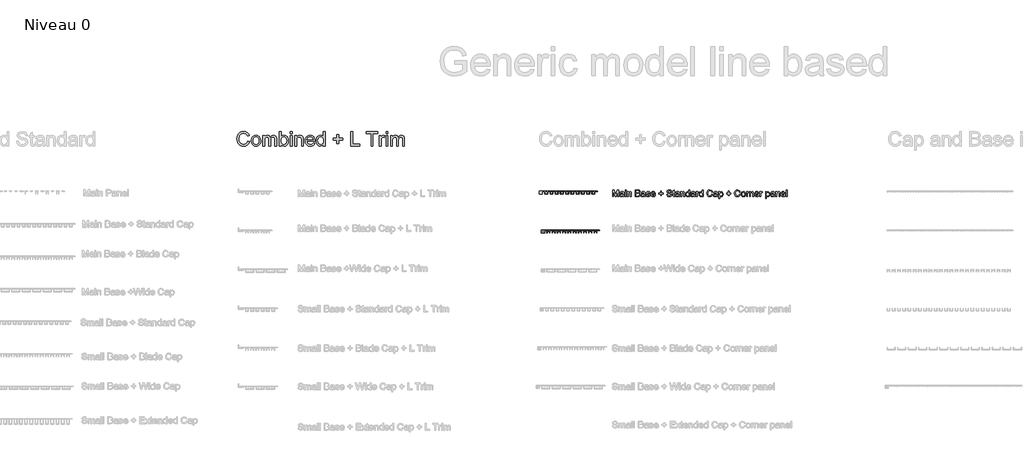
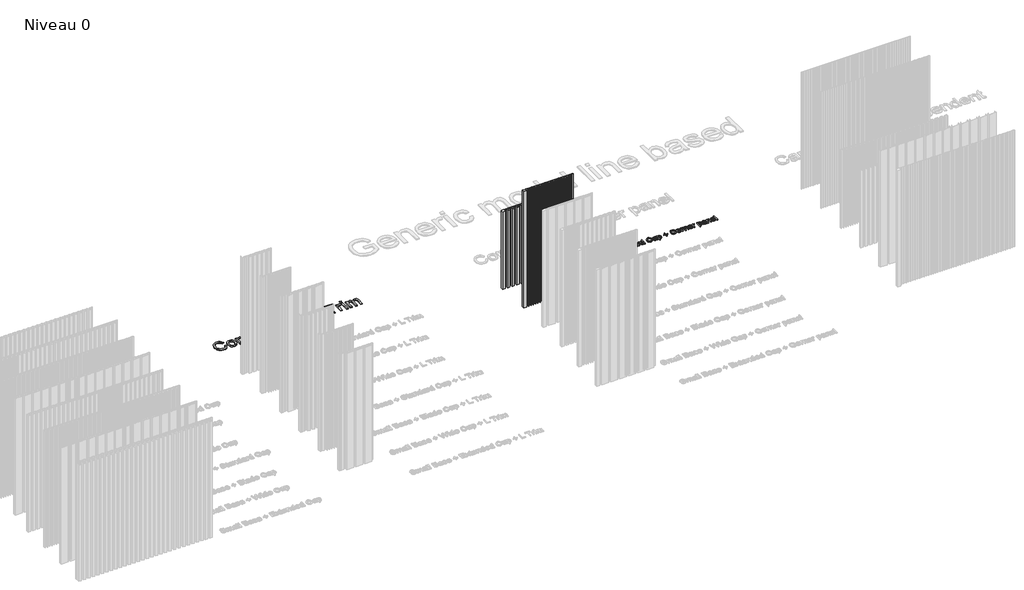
# One storey, part 18 of 25: 4 proxies.
"""IFC4 building model written with IfcOpenShell, lengths in millimetres."""

from ifc_helpers import new_model, si_unit, origin, origin_with_axes, place, context, project, spatial, polyline, outline, extrude, transform, mapped, element, save
from components import generic_models_521fa4f8, a_gen_line_main_base_corner_angle_a_gen_line_main_base_e9d3a1bb

model = new_model("IFC4")

# Units and contexts
model_context = context("Model", 3, world=origin())
ifc_project = project(units=[si_unit("LENGTHUNIT", "METRE", prefix="MILLI")], contexts=[model_context])

# Site, building, storey
site = spatial("IfcSite", under=ifc_project)
building = spatial("IfcBuilding", under=site)
storey = spatial("IfcBuildingStorey", under=building, Name="Niveau 0", Elevation=0.0)

# Proxies
placement = place(None, origin())
generic_models_shape = generic_models_521fa4f8(model_context)
element("IfcBuildingElementProxy", 1, Name="A_GEN_LINE_Main Base_Blade Cap_Corner Angle : A_GEN_LINE_Main Base_Blade Cap_Corner Angle", ObjectType="A_GEN_LINE_Main Base_Blade Cap_Corner Angle : A_GEN_LINE_Main Base_Blade Cap_Corner Angle", at=placement, inside=storey, context=model_context, shape_type="MappedRepresentation", body=[
    mapped(generic_models_shape, transform((3156.2043729, 4162.0535735, 0.0), x_axis=(1.0, 0.0, 0.0), y_axis=(0.0, 1.0, 0.0), z_axis=(0.0, 0.0, 1.0))),
])
element("IfcBuildingElementProxy", 2, Name="150 mm Arial", ObjectType="150 mm Arial", at=placement, inside=storey, context=model_context, shape_type="SweptSolid", body=[
    extrude(outline(polyline([(54.7960362, 5099.4454374), (73.6315944, 5094.5893951), (64.9403822, 5072.6406355), (51.3011573, 5056.6055791), (33.3853041, 5046.7969254), (11.8642074, 5043.5273741), (-9.9833846, 5046.0013806), (-27.3336192, 5053.4233998), (-40.6325533, 5065.5359145), (-50.3262439, 5082.0814072), (-56.2445455, 5101.5331677), (-58.2173127, 5122.3644857), (-55.9870281, 5144.3362379), (-49.2961743, 5163.3097518), (-38.4942392, 5178.6826207), (-23.9307108, 5189.8524377), (-6.6586511, 5196.6536561), (12.2688776, 5198.9207289), (32.9208531, 5195.98687), (49.9951762, 5187.1852933), (62.958418, 5173.0586246), (71.2771496, 5154.1494901), (52.4415914, 5149.6613298), (45.911686, 5163.3971238), (36.9905476, 5172.8195014), (25.5678117, 5178.2687534), (11.5331136, 5180.0851708), (-4.6444972, 5178.0710168), (-17.9342342, 5172.0285551), (-28.0187994, 5162.5923819), (-34.5808945, 5150.3970937), (-39.3817546, 5122.4012739), (-37.9608104, 5105.0004555), (-33.6979777, 5089.9540819), (-26.4323083, 5077.8369687), (-16.0028538, 5069.2239315), (-3.4994645, 5064.0781821), (9.9880092, 5062.3629323), (25.710366, 5064.698983), (38.8115635, 5071.707135), (48.7029907, 5083.3138119), (54.7960362, 5099.4454374)])), origin_with_axes(), (0.0, 0.0, 1.0), 10.0),
    extrude(outline(polyline([(92.4671525, 5101.211271), (96.5414456, 5127.8919127), (108.7643249, 5146.6446974), (123.8658808, 5155.8325502), (141.9472809, 5158.8951678), (161.7347337, 5155.1657641), (177.5398639, 5143.9775529), (187.9003406, 5126.2134511), (191.3538328, 5102.7563754), (189.8271225, 5083.7276792), (185.2469917, 5069.2423256), (177.7467975, 5058.3944053), (167.4598972, 5050.2780088), (155.2416165, 5045.2150328), (141.9472809, 5043.5273741), (121.9207048, 5047.2429823), (106.1339686, 5058.3898068), (95.8838565, 5076.5263891), (92.4671525, 5101.211271)]), holes=[polyline([(111.3027107, 5101.2480592), (113.4824115, 5084.2013272), (120.021514, 5072.0566229), (129.8623573, 5064.7863549), (141.9472809, 5062.3629323), (153.9770221, 5064.8001505), (163.7994714, 5072.1118052), (170.3385738, 5084.4174579), (172.5182747, 5101.8366704), (170.3247783, 5118.3867616), (163.7442891, 5130.3659191), (153.9080442, 5137.636187), (141.9472809, 5140.0596097), (129.8623573, 5137.6453841), (120.021514, 5130.4027073), (113.4824115, 5118.2855941), (111.3027107, 5101.2480592)])]), origin_with_axes(), (0.0, 0.0, 1.0), 10.0),
    extrude(outline(polyline([(212.5438357, 5045.8818189), (212.5438357, 5156.5407231), (231.3793939, 5156.5407231), (231.3793939, 5138.3305643), (244.3288401, 5153.2481792), (262.7597281, 5158.8951678), (273.2351679, 5157.4558295), (281.6320744, 5153.1378146), (292.0063467, 5137.0061891), (306.7032324, 5153.4229232), (325.2628791, 5158.8951678), (339.4217374, 5156.618898), (349.8925786, 5149.7900885), (356.3627032, 5138.2247982), (358.5194114, 5121.7390863), (358.5194114, 5045.8818189), (339.6838533, 5045.8818189), (339.6838533, 5113.6456824), (337.9364138, 5129.3726377), (331.6088435, 5137.1165537), (320.8482951, 5140.0596097), (310.6441683, 5138.1742145), (302.3254367, 5132.5180288), (296.7934112, 5122.7047766), (294.9494027, 5108.3481817), (294.9494027, 5045.8818189), (276.1138445, 5045.8818189), (276.1138445, 5115.7426098), (271.7544429, 5133.9895568), (266.0016882, 5138.5420965), (257.4622274, 5140.0596097), (243.5194997, 5136.0129077), (234.2488735, 5124.1671075), (231.3793939, 5101.6895176), (231.3793939, 5045.8818189), (212.5438357, 5045.8818189)])), origin_with_axes(), (0.0, 0.0, 1.0), 10.0),
    extrude(outline(polyline([(405.6083068, 5045.8818189), (386.7727487, 5045.8818189), (386.7727487, 5196.5662841), (405.6083068, 5196.5662841), (405.6083068, 5140.6850091), (418.7968763, 5154.3426281), (435.1860192, 5158.8951678), (454.0583656, 5154.7932836), (468.700069, 5143.260183), (477.6947838, 5125.3259358), (480.9505394, 5102.86674), (477.5798206, 5077.7220056), (467.4676643, 5059.0152061), (452.6282243, 5047.3993321), (435.0756546, 5043.5273741), (418.3278268, 5048.5213722), (405.6083068, 5063.5033665), (405.6083068, 5045.8818189)]), holes=[polyline([(405.6083068, 5101.9838232), (406.8958938, 5086.275262), (410.7586547, 5075.6434723), (420.6270893, 5065.6830673), (433.4569738, 5062.3629323), (444.3278868, 5064.8093476), (453.6169072, 5072.1485934), (459.9904627, 5084.3346845), (462.1149813, 5101.3216356), (460.0778347, 5118.5569071), (453.9663951, 5130.6050424), (444.9670818, 5137.6959679), (434.2663142, 5140.0596097), (423.3954013, 5137.6131944), (414.1063809, 5130.2739486), (407.7328253, 5118.3085867), (405.6083068, 5101.9838232)])]), origin_with_axes(), (0.0, 0.0, 1.0), 10.0),
    extrude(outline(polyline([(502.1405423, 5045.8818189), (502.1405423, 5156.5407231), (520.9761005, 5156.5407231), (520.9761005, 5045.8818189), (502.1405423, 5045.8818189)])), origin_with_axes(), (0.0, 0.0, 1.0), 10.0),
    extrude(outline(polyline([(502.1405423, 5177.730726), (502.1405423, 5196.5662841), (520.9761005, 5196.5662841), (520.9761005, 5177.730726), (502.1405423, 5177.730726)])), origin_with_axes(), (0.0, 0.0, 1.0), 10.0),
    extrude(outline(polyline([(549.2294377, 5045.8818189), (549.2294377, 5156.5407231), (568.0649959, 5156.5407231), (568.0649959, 5141.0896793), (582.467576, 5154.4437957), (602.1308686, 5158.8951678), (619.9179631, 5155.3083184), (632.0580689, 5145.8905393), (637.7050576, 5132.0397822), (638.698339, 5113.8296234), (638.698339, 5045.8818189), (619.8627808, 5045.8818189), (619.8627808, 5111.2912377), (617.692277, 5127.956292), (610.0219374, 5136.7670658), (597.0908853, 5140.0596097), (586.059024, 5138.2110027), (576.6550405, 5132.6651816), (570.212507, 5121.9506185), (568.0649959, 5104.5957853), (568.0649959, 5045.8818189), (549.2294377, 5045.8818189)])), origin_with_axes(), (0.0, 0.0, 1.0), 10.0),
    extrude(outline(polyline([(742.0731796, 5078.8440457), (760.5408558, 5076.4896009), (753.8867902, 5062.5744644), (743.2687961, 5052.172601), (728.9259968, 5045.6886809), (711.0975156, 5043.5273741), (688.9970047, 5047.2567779), (671.9916595, 5058.4449891), (661.1483377, 5076.3654407), (657.5338971, 5100.291566), (661.1851259, 5125.0224331), (672.1388123, 5143.5177004), (688.9142313, 5155.050801), (710.0306578, 5158.8951678), (730.4894953, 5155.059998), (746.8372514, 5143.5544886), (757.5564131, 5125.0960095), (761.1294669, 5100.4019306), (761.0191023, 5095.3251591), (676.3694553, 5095.3251591), (679.6298094, 5081.2260816), (687.20358, 5070.8610064), (698.1342738, 5064.4874508), (711.4653976, 5062.3629323), (729.9330738, 5066.2992696), (742.0731796, 5078.8440457)]), holes=[polyline([(676.3694553, 5114.1607172), (742.2939088, 5114.1607172), (739.746326, 5124.1119252), (734.7523279, 5131.2304418), (723.7710503, 5137.8523177), (709.9570814, 5140.0596097), (697.2605541, 5138.2983746), (686.7621216, 5133.0146695), (679.4642625, 5124.7787113), (676.3694553, 5114.1607172)])]), origin_with_axes(), (0.0, 0.0, 1.0), 10.0),
    extrude(outline(polyline([(848.2439234, 5045.8818189), (848.2439234, 5063.6505193), (835.7819208, 5048.5581604), (818.5558464, 5043.5273741), (806.3789524, 5045.34839), (795.2321279, 5050.8114377), (785.7959547, 5059.5348395), (778.7510145, 5071.1369179), (774.3640217, 5085.1486234), (772.9016908, 5101.1009064), (778.291162, 5131.083289), (785.0234025, 5142.9750745), (794.4411816, 5151.7214689), (805.8317279, 5157.1017431), (818.48227, 5158.8951678), (835.8463002, 5153.763214), (848.2439234, 5140.4274917), (848.2439234, 5196.5662841), (867.0794816, 5196.5662841), (867.0794816, 5045.8818189), (848.2439234, 5045.8818189)]), holes=[polyline([(791.7372489, 5101.1744828), (793.8617675, 5084.1369479), (800.235323, 5072.0198347), (809.4967523, 5064.7771579), (820.2848918, 5062.3629323), (831.0684328, 5064.6667933), (840.0953372, 5071.5783763), (846.2067769, 5083.22644), (848.2439234, 5099.739743), (846.1699887, 5117.7935519), (839.9481844, 5130.3107368), (830.6913537, 5137.6223915), (819.5123396, 5140.0596097), (808.6138355, 5137.7189605), (799.6835, 5130.6970129), (793.7238117, 5118.635082), (791.7372489, 5101.1744828)])]), origin_with_axes(), (0.0, 0.0, 1.0), 10.0),
    extrude(outline(polyline([(991.8650543, 5069.4262666), (991.8650543, 5109.4518277), (951.8394932, 5109.4518277), (951.8394932, 5128.2873858), (991.8650543, 5128.2873858), (991.8650543, 5168.3129469), (1010.7006125, 5168.3129469), (1010.7006125, 5128.2873858), (1050.7261735, 5128.2873858), (1050.7261735, 5109.4518277), (1010.7006125, 5109.4518277), (1010.7006125, 5069.4262666), (991.8650543, 5069.4262666)])), origin_with_axes(), (0.0, 0.0, 1.0), 10.0),
    extrude(outline(polyline([(1137.84063, 5045.8818189), (1137.84063, 5196.5662841), (1156.6761882, 5196.5662841), (1156.6761882, 5064.7173771), (1232.0184208, 5064.7173771), (1232.0184208, 5045.8818189), (1137.84063, 5045.8818189)])), origin_with_axes(), (0.0, 0.0, 1.0), 10.0),
    extrude(outline(polyline([(1349.7406592, 5045.8818189), (1349.7406592, 5177.730726), (1300.2973191, 5177.730726), (1300.2973191, 5196.5662841), (1418.0195575, 5196.5662841), (1418.0195575, 5177.730726), (1368.5762174, 5177.730726), (1368.5762174, 5045.8818189), (1349.7406592, 5045.8818189)])), origin_with_axes(), (0.0, 0.0, 1.0), 10.0),
    extrude(outline(polyline([(1436.8551157, 5045.8818189), (1436.8551157, 5156.5407231), (1453.3362291, 5156.5407231), (1453.3362291, 5140.1699743), (1465.0348765, 5155.2531361), (1476.8071004, 5158.8951678), (1495.7162349, 5153.0826323), (1489.4254528, 5136.1968487), (1476.181701, 5140.0596097), (1465.5315172, 5136.3440015), (1458.7440944, 5126.0433057), (1455.6906738, 5104.0439624), (1455.6906738, 5045.8818189), (1436.8551157, 5045.8818189)])), origin_with_axes(), (0.0, 0.0, 1.0), 10.0),
    extrude(outline(polyline([(1507.4884588, 5177.730726), (1507.4884588, 5196.5662841), (1526.3240169, 5196.5662841), (1526.3240169, 5177.730726), (1507.4884588, 5177.730726)])), origin_with_axes(), (0.0, 0.0, 1.0), 10.0),
    extrude(outline(polyline([(1507.4884588, 5045.8818189), (1507.4884588, 5156.5407231), (1526.3240169, 5156.5407231), (1526.3240169, 5045.8818189), (1507.4884588, 5045.8818189)])), origin_with_axes(), (0.0, 0.0, 1.0), 10.0),
    extrude(outline(polyline([(1554.5773541, 5045.8818189), (1554.5773541, 5156.5407231), (1573.4129123, 5156.5407231), (1573.4129123, 5138.3305643), (1586.3623585, 5153.2481792), (1604.7932465, 5158.8951678), (1615.2686863, 5157.4558295), (1623.6655928, 5153.1378146), (1634.0398651, 5137.0061891), (1648.7367508, 5153.4229232), (1667.2963975, 5158.8951678), (1681.4552558, 5156.618898), (1691.926097, 5149.7900885), (1698.3962216, 5138.2247982), (1700.5529298, 5121.7390863), (1700.5529298, 5045.8818189), (1681.7173717, 5045.8818189), (1681.7173717, 5113.6456824), (1679.9699322, 5129.3726377), (1673.6423619, 5137.1165537), (1662.8818135, 5140.0596097), (1652.6776867, 5138.1742145), (1644.3589551, 5132.5180288), (1638.8269296, 5122.7047766), (1636.9829211, 5108.3481817), (1636.9829211, 5045.8818189), (1618.1473629, 5045.8818189), (1618.1473629, 5115.7426098), (1613.7879613, 5133.9895568), (1608.0352066, 5138.5420965), (1599.4957458, 5140.0596097), (1585.5530181, 5136.0129077), (1576.2823919, 5124.1671075), (1573.4129123, 5101.6895176), (1573.4129123, 5045.8818189), (1554.5773541, 5045.8818189)])), origin_with_axes(), (0.0, 0.0, 1.0), 10.0),
])
element("IfcBuildingElementProxy", 3, Name="70mm Arial", ObjectType="70mm Arial", at=placement, inside=storey, context=model_context, shape_type="SweptSolid", body=[
    extrude(outline(polyline([(3886.1765083, 4513.9134613), (3886.1765083, 4584.2328784), (3901.3013634, 4584.2328784), (3915.688002, 4534.6693635), (3918.5893646, 4524.3171642), (3921.7310769, 4535.5277548), (3935.8773659, 4584.2328784), (3951.0022209, 4584.2328784), (3951.0022209, 4513.9134613), (3942.2122938, 4513.9134613), (3942.2122938, 4575.4429513), (3924.5466004, 4513.9134613), (3912.6321289, 4513.9134613), (3894.9664354, 4575.4429513), (3894.9664354, 4513.9134613), (3886.1765083, 4513.9134613)])), origin_with_axes(), (0.0, 0.0, 1.0), 10.0),
    extrude(outline(polyline([(3998.2480793, 4520.5059067), (3989.7242535, 4514.5486709), (3980.3077007, 4512.8147204), (3967.5434217, 4516.9865023), (3963.0883708, 4527.6477225), (3964.7708178, 4534.6006922), (3969.1915331, 4539.6480332), (3975.3461988, 4542.532228), (3982.951546, 4543.8541506), (3998.1965758, 4546.8756881), (3998.2480793, 4548.8328203), (3995.8274158, 4555.3222587), (3986.110426, 4557.863097), (3977.2174919, 4556.1720661), (3972.9770388, 4550.1719108), (3964.1871117, 4551.2706517), (3967.9897852, 4559.8545649), (3975.6466358, 4564.884738), (3987.2435026, 4566.6530242), (3997.8961389, 4565.090752), (4003.913462, 4561.1679036), (4006.6088108, 4555.2020839), (4007.0380065, 4547.5108977), (4007.0380065, 4536.5749922), (4007.4843699, 4521.3042106), (4009.2354882, 4513.9134613), (4000.4455611, 4513.9134613), (3998.2480793, 4520.5059067)]), holes=[polyline([(3998.2480793, 4538.085761), (3984.0674547, 4535.3904122), (3976.5050271, 4533.9654826), (3973.0800458, 4531.647826), (3971.8782979, 4528.2657642), (3974.4963914, 4523.5102763), (3982.1789938, 4521.6046476), (3991.0719279, 4523.7077063), (3996.8059819, 4528.7979669), (3998.1965758, 4535.5964261), (3998.2480793, 4538.085761)])]), origin_with_axes(), (0.0, 0.0, 1.0), 10.0),
    extrude(outline(polyline([(4019.1241563, 4513.9134613), (4019.1241563, 4565.5542833), (4027.9140834, 4565.5542833), (4027.9140834, 4513.9134613), (4019.1241563, 4513.9134613)])), origin_with_axes(), (0.0, 0.0, 1.0), 10.0),
    extrude(outline(polyline([(4019.1241563, 4575.4429513), (4019.1241563, 4584.2328784), (4027.9140834, 4584.2328784), (4027.9140834, 4575.4429513), (4019.1241563, 4575.4429513)])), origin_with_axes(), (0.0, 0.0, 1.0), 10.0),
    extrude(outline(polyline([(4041.0989741, 4513.9134613), (4041.0989741, 4565.5542833), (4049.8889013, 4565.5542833), (4049.8889013, 4558.3437962), (4056.6101053, 4564.5757172), (4065.7863085, 4566.6530242), (4074.0869526, 4564.9791611), (4079.7523353, 4560.5841975), (4082.3875967, 4554.1205109), (4082.851128, 4545.6224368), (4082.851128, 4513.9134613), (4074.0612009, 4513.9134613), (4074.0612009, 4544.4378567), (4073.0482991, 4552.2148821), (4069.4688073, 4556.3265766), (4063.4343163, 4557.863097), (4053.8975887, 4554.4123639), (4049.8889013, 4541.3133123), (4049.8889013, 4513.9134613), (4041.0989741, 4513.9134613)])), origin_with_axes(), (0.0, 0.0, 1.0), 10.0),
    extrude(outline(polyline([(4123.504541, 4513.9134613), (4123.504541, 4584.2328784), (4150.3378538, 4584.2328784), (4163.4798249, 4582.1641554), (4171.2396825, 4575.8034757), (4174.0466221, 4566.8075346), (4171.6860459, 4558.5927296), (4164.5528141, 4552.3693926), (4173.2139825, 4545.8112829), (4176.2441039, 4534.8753774), (4174.1753808, 4525.424489), (4169.0507846, 4518.694701), (4161.4025179, 4515.1237931), (4150.1318398, 4513.9134613), (4123.504541, 4513.9134613)]), holes=[polyline([(4132.2944682, 4555.6656152), (4148.3463859, 4555.6656152), (4157.7200191, 4556.4209996), (4163.3596501, 4559.6743027), (4165.2566949, 4565.3997728), (4163.4884088, 4571.1338269), (4158.4239, 4574.5244726), (4147.1274702, 4575.4429513), (4132.2944682, 4575.4429513), (4132.2944682, 4555.6656152)]), polyline([(4132.2944682, 4522.7033885), (4150.3206859, 4522.7033885), (4156.84446, 4523.046745), (4162.3639162, 4524.9609576), (4166.0206632, 4528.8666382), (4167.4541767, 4534.7895383), (4165.7717297, 4541.6223332), (4160.3209448, 4545.699692), (4149.4622946, 4546.8756881), (4132.2944682, 4546.8756881), (4132.2944682, 4522.7033885)])]), origin_with_axes(), (0.0, 0.0, 1.0), 10.0),
    extrude(outline(polyline([(4220.1937396, 4520.5059067), (4211.6699137, 4514.5486709), (4202.2533609, 4512.8147204), (4189.489082, 4516.9865023), (4185.034031, 4527.6477225), (4186.716478, 4534.6006922), (4191.1371933, 4539.6480332), (4197.2918591, 4542.532228), (4204.8972062, 4543.8541506), (4220.1422361, 4546.8756881), (4220.1937396, 4548.8328203), (4217.773076, 4555.3222587), (4208.0560863, 4557.863097), (4199.1631522, 4556.1720661), (4194.922699, 4550.1719108), (4186.1327719, 4551.2706517), (4189.9354454, 4559.8545649), (4197.592296, 4564.884738), (4209.1891628, 4566.6530242), (4219.8417991, 4565.090752), (4225.8591223, 4561.1679036), (4228.554471, 4555.2020839), (4228.9836667, 4547.5108977), (4228.9836667, 4536.5749922), (4229.4300302, 4521.3042106), (4231.1811485, 4513.9134613), (4222.3912213, 4513.9134613), (4220.1937396, 4520.5059067)]), holes=[polyline([(4220.1937396, 4538.085761), (4206.0131149, 4535.3904122), (4198.4506874, 4533.9654826), (4195.025706, 4531.647826), (4193.8239581, 4528.2657642), (4196.4420517, 4523.5102763), (4204.124654, 4521.6046476), (4213.0175881, 4523.7077063), (4218.7516421, 4528.7979669), (4220.1422361, 4535.5964261), (4220.1937396, 4538.085761)])]), origin_with_axes(), (0.0, 0.0, 1.0), 10.0),
    extrude(outline(polyline([(4237.7735938, 4529.2958338), (4246.563521, 4530.3945747), (4250.6322958, 4523.8708007), (4259.9544256, 4521.6046476), (4268.916031, 4523.6819546), (4271.8345615, 4528.5576173), (4268.8988632, 4532.5062174), (4259.8514186, 4535.01272), (4246.6150244, 4539.3132606), (4240.8380508, 4544.3348498), (4238.8723347, 4551.4251621), (4240.4517748, 4557.9746879), (4244.7608992, 4562.9791093), (4250.3490267, 4565.580035), (4257.9114542, 4566.6530242), (4268.6070101, 4564.9276576), (4275.4054694, 4560.2580088), (4278.4270068, 4552.3693926), (4269.6370797, 4551.2706517), (4266.3322731, 4556.1205626), (4258.5981673, 4557.863097), (4250.1859323, 4556.1978179), (4247.6622619, 4552.3178891), (4248.7094993, 4549.7598829), (4251.9885541, 4547.8199186), (4259.5595656, 4545.9486255), (4272.4611872, 4541.8111793), (4278.4527586, 4537.1243627), (4280.6244886, 4529.4846799), (4278.0750664, 4521.072445), (4270.7186528, 4514.9692827), (4259.8342508, 4512.8147204), (4244.5033818, 4516.9693344), (4237.7735938, 4529.2958338)])), origin_with_axes(), (0.0, 0.0, 1.0), 10.0),
    extrude(outline(polyline([(4326.6685991, 4529.2958338), (4335.286848, 4528.1970929), (4327.2265535, 4516.8491597), (4312.2132893, 4512.8147204), (4301.8997175, 4514.5551088), (4293.9638898, 4519.7762741), (4288.9036729, 4528.1391515), (4287.216934, 4539.3046766), (4288.9208408, 4550.845748), (4294.0325611, 4559.4768727), (4301.8610899, 4564.8589863), (4311.7154223, 4566.6530242), (4321.2628798, 4564.8632783), (4328.8918327, 4559.4940405), (4333.8941081, 4550.8800836), (4335.5615332, 4539.3561801), (4335.5100298, 4536.9870201), (4296.0068611, 4536.9870201), (4301.062786, 4525.5704155), (4312.3849675, 4521.6046476), (4321.0032164, 4523.441605), (4326.6685991, 4529.2958338)]), holes=[polyline([(4296.0068611, 4545.7769472), (4326.7716061, 4545.7769472), (4323.2522017, 4553.7428187), (4311.6810867, 4557.863097), (4300.8567721, 4554.5754583), (4296.0068611, 4545.7769472)])]), origin_with_axes(), (0.0, 0.0, 1.0), 10.0),
    extrude(outline(polyline([(4389.399837, 4524.9008703), (4389.399837, 4543.5794654), (4370.7212418, 4543.5794654), (4370.7212418, 4552.3693926), (4389.399837, 4552.3693926), (4389.399837, 4571.0479877), (4398.1897641, 4571.0479877), (4398.1897641, 4552.3693926), (4416.8683593, 4552.3693926), (4416.8683593, 4543.5794654), (4398.1897641, 4543.5794654), (4398.1897641, 4524.9008703), (4389.399837, 4524.9008703)])), origin_with_axes(), (0.0, 0.0, 1.0), 10.0),
    extrude(outline(polyline([(4454.2255496, 4538.085761), (4463.0154767, 4538.085761), (4465.8481681, 4529.2872499), (4472.7668022, 4523.7248741), (4483.3078476, 4521.6046476), (4492.4926347, 4523.2098394), (4498.4241188, 4527.6219707), (4500.3726671, 4533.5191191), (4498.9134018, 4539.0042397), (4492.9389982, 4542.9957593), (4480.1403836, 4546.3520694), (4466.3632029, 4550.6869456), (4458.8866145, 4557.2278874), (4456.4230314, 4565.9663111), (4459.4703206, 4575.9150665), (4468.3718386, 4582.9367075), (4481.4022189, 4585.3316193), (4495.3081583, 4582.8251167), (4504.5787846, 4575.4601191), (4508.0638533, 4564.4555424), (4499.2739262, 4564.4555424), (4494.2952565, 4573.4858191), (4481.7455754, 4576.5416922), (4469.1615586, 4573.5201547), (4465.2129585, 4566.2238285), (4468.0113142, 4560.1292501), (4482.3636171, 4555.2192518), (4497.9176679, 4550.8071204), (4506.4243259, 4543.6824724), (4509.1625942, 4533.7423009), (4506.0122981, 4523.2270072), (4496.9476857, 4515.5529888), (4483.6512041, 4512.8147204), (4467.9512268, 4515.7675866), (4458.0196392, 4524.6605207), (4454.2255496, 4538.085761)])), origin_with_axes(), (0.0, 0.0, 1.0), 10.0),
    extrude(outline(polyline([(4539.9273392, 4521.2441232), (4541.0260801, 4513.6559439), (4534.4508026, 4512.8147204), (4527.085805, 4514.2739857), (4523.4118902, 4518.102411), (4522.3474849, 4528.0769181), (4522.3474849, 4556.7643561), (4515.7550396, 4556.7643561), (4515.7550396, 4565.5542833), (4522.3474849, 4565.5542833), (4522.3474849, 4578.1039644), (4531.1374121, 4583.2714802), (4531.1374121, 4565.5542833), (4539.9273392, 4565.5542833), (4539.9273392, 4556.7643561), (4531.1374121, 4556.7643561), (4531.1374121, 4528.3344355), (4531.6009434, 4523.8021294), (4533.1031282, 4522.1969376), (4536.0989139, 4521.6046476), (4539.9273392, 4521.2441232)])), origin_with_axes(), (0.0, 0.0, 1.0), 10.0),
    extrude(outline(polyline([(4581.6794931, 4520.5059067), (4573.1556673, 4514.5486709), (4563.7391145, 4512.8147204), (4550.9748355, 4516.9865023), (4546.5197846, 4527.6477225), (4548.2022315, 4534.6006922), (4552.6229469, 4539.6480332), (4558.7776126, 4542.532228), (4566.3829597, 4543.8541506), (4581.6279896, 4546.8756881), (4581.6794931, 4548.8328203), (4579.2588296, 4555.3222587), (4569.5418398, 4557.863097), (4560.6489057, 4556.1720661), (4556.4084526, 4550.1719108), (4547.6185254, 4551.2706517), (4551.421199, 4559.8545649), (4559.0780496, 4564.884738), (4570.6749164, 4566.6530242), (4581.3275527, 4565.090752), (4587.3448758, 4561.1679036), (4590.0402246, 4555.2020839), (4590.4694202, 4547.5108977), (4590.4694202, 4536.5749922), (4590.9157837, 4521.3042106), (4592.666902, 4513.9134613), (4583.8769749, 4513.9134613), (4581.6794931, 4520.5059067)]), holes=[polyline([(4581.6794931, 4538.085761), (4567.4988685, 4535.3904122), (4559.9364409, 4533.9654826), (4556.5114595, 4531.647826), (4555.3097117, 4528.2657642), (4557.9278052, 4523.5102763), (4565.6104076, 4521.6046476), (4574.5033417, 4523.7077063), (4580.2373957, 4528.7979669), (4581.6279896, 4535.5964261), (4581.6794931, 4538.085761)])]), origin_with_axes(), (0.0, 0.0, 1.0), 10.0),
    extrude(outline(polyline([(4602.5555701, 4513.9134613), (4602.5555701, 4565.5542833), (4611.3454972, 4565.5542833), (4611.3454972, 4558.3437962), (4618.0667012, 4564.5757172), (4627.2429045, 4566.6530242), (4635.5435486, 4564.9791611), (4641.2089313, 4560.5841975), (4643.8441927, 4554.1205109), (4644.307724, 4545.6224368), (4644.307724, 4513.9134613), (4635.5177968, 4513.9134613), (4635.5177968, 4544.4378567), (4634.5048951, 4552.2148821), (4630.9254033, 4556.3265766), (4624.8909123, 4557.863097), (4615.3541847, 4554.4123639), (4611.3454972, 4541.3133123), (4611.3454972, 4513.9134613), (4602.5555701, 4513.9134613)])), origin_with_axes(), (0.0, 0.0, 1.0), 10.0),
    extrude(outline(polyline([(4688.2573597, 4513.9134613), (4688.2573597, 4522.2055215), (4682.4417584, 4515.1624207), (4674.4029237, 4512.8147204), (4663.5185218, 4516.2139501), (4655.8273355, 4525.6991742), (4653.0976511, 4539.6823688), (4655.6127377, 4553.6741474), (4663.1494135, 4563.305298), (4674.3685881, 4566.6530242), (4682.4718021, 4564.2581124), (4688.2573597, 4558.0347753), (4688.2573597, 4584.2328784), (4697.0472868, 4584.2328784), (4697.0472868, 4513.9134613), (4688.2573597, 4513.9134613)]), holes=[polyline([(4661.8875782, 4539.7167045), (4665.8533461, 4526.111202), (4675.2098116, 4521.6046476), (4684.4546861, 4525.9051881), (4688.2573597, 4539.0471592), (4684.3860148, 4553.313623), (4674.8492872, 4557.863097), (4665.5958288, 4553.4938852), (4661.8875782, 4539.7167045)])]), origin_with_axes(), (0.0, 0.0, 1.0), 10.0),
    extrude(outline(polyline([(4743.1944043, 4520.5059067), (4734.6705784, 4514.5486709), (4725.2540256, 4512.8147204), (4712.4897467, 4516.9865023), (4708.0346957, 4527.6477225), (4709.7171427, 4534.6006922), (4714.137858, 4539.6480332), (4720.2925238, 4542.532228), (4727.8978709, 4543.8541506), (4743.1429008, 4546.8756881), (4743.1944043, 4548.8328203), (4740.7737407, 4555.3222587), (4731.056751, 4557.863097), (4722.1638169, 4556.1720661), (4717.9233637, 4550.1719108), (4709.1334366, 4551.2706517), (4712.9361102, 4559.8545649), (4720.5929608, 4564.884738), (4732.1898275, 4566.6530242), (4742.8424638, 4565.090752), (4748.859787, 4561.1679036), (4751.5551357, 4555.2020839), (4751.9843314, 4547.5108977), (4751.9843314, 4536.5749922), (4752.4306949, 4521.3042106), (4754.1818132, 4513.9134613), (4745.3918861, 4513.9134613), (4743.1944043, 4520.5059067)]), holes=[polyline([(4743.1944043, 4538.085761), (4729.0137796, 4535.3904122), (4721.4513521, 4533.9654826), (4718.0263707, 4531.647826), (4716.8246229, 4528.2657642), (4719.4427164, 4523.5102763), (4727.1253187, 4521.6046476), (4736.0182528, 4523.7077063), (4741.7523068, 4528.7979669), (4743.1429008, 4535.5964261), (4743.1944043, 4538.085761)])]), origin_with_axes(), (0.0, 0.0, 1.0), 10.0),
    extrude(outline(polyline([(4764.0704812, 4513.9134613), (4764.0704812, 4565.5542833), (4771.7616675, 4565.5542833), (4771.7616675, 4557.9146005), (4777.2210363, 4564.9534093), (4782.7147407, 4566.6530242), (4791.5390035, 4563.9405076), (4788.6033052, 4556.0604752), (4782.4228877, 4557.863097), (4777.4528019, 4556.1291466), (4774.285338, 4551.3221551), (4772.8604084, 4541.0557949), (4772.8604084, 4513.9134613), (4764.0704812, 4513.9134613)])), origin_with_axes(), (0.0, 0.0, 1.0), 10.0),
    extrude(outline(polyline([(4828.8961939, 4513.9134613), (4828.8961939, 4522.2055215), (4823.0805927, 4515.1624207), (4815.0417579, 4512.8147204), (4804.157356, 4516.2139501), (4796.4661697, 4525.6991742), (4793.7364853, 4539.6823688), (4796.2515719, 4553.6741474), (4803.7882477, 4563.305298), (4815.0074223, 4566.6530242), (4823.1106364, 4564.2581124), (4828.8961939, 4558.0347753), (4828.8961939, 4584.2328784), (4837.686121, 4584.2328784), (4837.686121, 4513.9134613), (4828.8961939, 4513.9134613)]), holes=[polyline([(4802.5264125, 4539.7167045), (4806.4921804, 4526.111202), (4815.8486458, 4521.6046476), (4825.0935203, 4525.9051881), (4828.8961939, 4539.0471592), (4825.024849, 4553.313623), (4815.4881214, 4557.863097), (4806.234663, 4553.4938852), (4802.5264125, 4539.7167045)])]), origin_with_axes(), (0.0, 0.0, 1.0), 10.0),
    extrude(outline(polyline([(4928.8816151, 4538.9098166), (4937.6715422, 4536.6436635), (4933.6156432, 4526.4009091), (4927.2506715, 4518.9178827), (4918.8899401, 4514.340511), (4908.8467616, 4512.8147204), (4890.5544425, 4517.4328658), (4879.824551, 4530.8066026), (4876.1420522, 4549.6053725), (4880.3052501, 4568.7131633), (4892.1424665, 4581.0997501), (4909.0356077, 4585.3316193), (4926.6412137, 4579.8550827), (4936.5728013, 4564.4383746), (4927.7828742, 4562.3438997), (4920.5723871, 4573.1510465), (4908.6922512, 4576.5416922), (4894.9408222, 4572.7819382), (4887.1723807, 4562.6872563), (4884.9319794, 4549.6225403), (4887.5844086, 4534.4805174), (4895.8421331, 4524.8064472), (4907.9712025, 4521.6046476), (4921.4221945, 4525.9652755), (4928.8816151, 4538.9098166)])), origin_with_axes(), (0.0, 0.0, 1.0), 10.0),
    extrude(outline(polyline([(4981.6211779, 4520.5059067), (4973.0973521, 4514.5486709), (4963.6807993, 4512.8147204), (4950.9165203, 4516.9865023), (4946.4614693, 4527.6477225), (4948.1439163, 4534.6006922), (4952.5646316, 4539.6480332), (4958.7192974, 4542.532228), (4966.3246445, 4543.8541506), (4981.5696744, 4546.8756881), (4981.6211779, 4548.8328203), (4979.2005144, 4555.3222587), (4969.4835246, 4557.863097), (4960.5905905, 4556.1720661), (4956.3501374, 4550.1719108), (4947.5602102, 4551.2706517), (4951.3628838, 4559.8545649), (4959.0197344, 4564.884738), (4970.6166011, 4566.6530242), (4981.2692374, 4565.090752), (4987.2865606, 4561.1679036), (4989.9819094, 4555.2020839), (4990.411105, 4547.5108977), (4990.411105, 4536.5749922), (4990.8574685, 4521.3042106), (4992.6085868, 4513.9134613), (4983.8186597, 4513.9134613), (4981.6211779, 4520.5059067)]), holes=[polyline([(4981.6211779, 4538.085761), (4967.4405532, 4535.3904122), (4959.8781257, 4533.9654826), (4956.4531443, 4531.647826), (4955.2513965, 4528.2657642), (4957.86949, 4523.5102763), (4965.5520923, 4521.6046476), (4974.4450264, 4523.7077063), (4980.1790805, 4528.7979669), (4981.5696744, 4535.5964261), (4981.6211779, 4538.085761)])]), origin_with_axes(), (0.0, 0.0, 1.0), 10.0),
    extrude(outline(polyline([(5002.4972548, 4494.1361253), (5002.4972548, 4565.5542833), (5011.287182, 4565.5542833), (5011.287182, 4556.9360344), (5017.3645925, 4564.2237767), (5025.5708136, 4566.6530242), (5036.7127329, 4563.2537945), (5043.9918914, 4553.6741474), (5046.4468905, 4540.1287323), (5043.6742866, 4525.8880203), (5035.622576, 4516.1881983), (5024.5064083, 4512.8147204), (5016.8581417, 4515.0722896), (5011.287182, 4520.7805919), (5011.287182, 4494.1361253), (5002.4972548, 4494.1361253)]), holes=[polyline([(5011.287182, 4539.3218445), (5015.0898555, 4525.9309398), (5024.3175622, 4521.6046476), (5033.7341151, 4526.0854503), (5037.6569634, 4539.9742219), (5033.8285381, 4553.3994621), (5024.6780866, 4557.863097), (5015.3473729, 4553.116193), (5011.287182, 4539.3218445)])]), origin_with_axes(), (0.0, 0.0, 1.0), 10.0),
    extrude(outline(polyline([(5101.3839351, 4524.9008703), (5101.3839351, 4543.5794654), (5082.70534, 4543.5794654), (5082.70534, 4552.3693926), (5101.3839351, 4552.3693926), (5101.3839351, 4571.0479877), (5110.1738623, 4571.0479877), (5110.1738623, 4552.3693926), (5128.8524575, 4552.3693926), (5128.8524575, 4543.5794654), (5110.1738623, 4543.5794654), (5110.1738623, 4524.9008703), (5101.3839351, 4524.9008703)])), origin_with_axes(), (0.0, 0.0, 1.0), 10.0),
    extrude(outline(polyline([(5218.9492106, 4538.9098166), (5227.7391378, 4536.6436635), (5223.6832388, 4526.4009091), (5217.3182671, 4518.9178827), (5208.9575356, 4514.340511), (5198.9143572, 4512.8147204), (5180.6220381, 4517.4328658), (5169.8921466, 4530.8066026), (5166.2096478, 4549.6053725), (5170.3728457, 4568.7131633), (5182.210062, 4581.0997501), (5199.1032033, 4585.3316193), (5216.7088093, 4579.8550827), (5226.6403969, 4564.4383746), (5217.8504697, 4562.3438997), (5210.6399826, 4573.1510465), (5198.7598467, 4576.5416922), (5185.0084177, 4572.7819382), (5177.2399763, 4562.6872563), (5174.9995749, 4549.6225403), (5177.6520041, 4534.4805174), (5185.9097286, 4524.8064472), (5198.038798, 4521.6046476), (5211.48979, 4525.9652755), (5218.9492106, 4538.9098166)])), origin_with_axes(), (0.0, 0.0, 1.0), 10.0),
    extrude(outline(polyline([(5236.5290649, 4539.7338723), (5238.4304017, 4552.1848384), (5244.134412, 4560.936138), (5259.6197915, 4566.6530242), (5268.8539361, 4564.9126358), (5276.2296635, 4559.6914705), (5281.0645527, 4551.4015563), (5282.6761824, 4540.454921), (5279.8263232, 4524.8150311), (5271.5256791, 4515.9650166), (5259.6197915, 4512.8147204), (5250.2740559, 4514.5486709), (5242.9069124, 4519.7505223), (5238.1235268, 4528.2142608), (5236.5290649, 4539.7338723)]), holes=[polyline([(5245.318992, 4539.7510401), (5249.3877669, 4526.1283698), (5259.6197915, 4521.6046476), (5269.8174804, 4526.1541216), (5273.8862552, 4540.0257254), (5269.7917286, 4553.3393748), (5259.6197915, 4557.863097), (5249.3877669, 4553.3565426), (5245.318992, 4539.7510401)])]), origin_with_axes(), (0.0, 0.0, 1.0), 10.0),
    extrude(outline(polyline([(5292.5648504, 4513.9134613), (5292.5648504, 4565.5542833), (5300.2560366, 4565.5542833), (5300.2560366, 4557.9146005), (5305.7154055, 4564.9534093), (5311.2091099, 4566.6530242), (5320.0333727, 4563.9405076), (5317.0976744, 4556.0604752), (5310.9172569, 4557.863097), (5305.9471711, 4556.1291466), (5302.7797071, 4551.3221551), (5301.3547775, 4541.0557949), (5301.3547775, 4513.9134613), (5292.5648504, 4513.9134613)])), origin_with_axes(), (0.0, 0.0, 1.0), 10.0),
    extrude(outline(polyline([(5325.5270772, 4513.9134613), (5325.5270772, 4565.5542833), (5334.3170043, 4565.5542833), (5334.3170043, 4558.3437962), (5341.0382084, 4564.5757172), (5350.2144116, 4566.6530242), (5358.5150557, 4564.9791611), (5364.1804384, 4560.5841975), (5366.8156998, 4554.1205109), (5367.2792311, 4545.6224368), (5367.2792311, 4513.9134613), (5358.4893039, 4513.9134613), (5358.4893039, 4544.4378567), (5357.4764022, 4552.2148821), (5353.8969104, 4556.3265766), (5347.8624194, 4557.863097), (5338.3256918, 4554.4123639), (5334.3170043, 4541.3133123), (5334.3170043, 4513.9134613), (5325.5270772, 4513.9134613)])), origin_with_axes(), (0.0, 0.0, 1.0), 10.0),
    extrude(outline(polyline([(5415.5208234, 4529.2958338), (5424.1390722, 4528.1970929), (5416.0787777, 4516.8491597), (5401.0655135, 4512.8147204), (5390.7519418, 4514.5551088), (5382.816114, 4519.7762741), (5377.7558972, 4528.1391515), (5376.0691582, 4539.3046766), (5377.773065, 4550.845748), (5382.8847853, 4559.4768727), (5390.7133142, 4564.8589863), (5400.5676465, 4566.6530242), (5410.115104, 4564.8632783), (5417.7440569, 4559.4940405), (5422.7463323, 4550.8800836), (5424.4137575, 4539.3561801), (5424.362254, 4536.9870201), (5384.8590853, 4536.9870201), (5389.9150102, 4525.5704155), (5401.2371918, 4521.6046476), (5409.8554406, 4523.441605), (5415.5208234, 4529.2958338)]), holes=[polyline([(5384.8590853, 4545.7769472), (5415.6238303, 4545.7769472), (5412.1044259, 4553.7428187), (5400.5333109, 4557.863097), (5389.7089963, 4554.5754583), (5384.8590853, 4545.7769472)])]), origin_with_axes(), (0.0, 0.0, 1.0), 10.0),
    extrude(outline(polyline([(5433.2036846, 4513.9134613), (5433.2036846, 4565.5542833), (5440.8948709, 4565.5542833), (5440.8948709, 4557.9146005), (5446.3542397, 4564.9534093), (5451.8479441, 4566.6530242), (5460.6722069, 4563.9405076), (5457.7365086, 4556.0604752), (5451.5560911, 4557.863097), (5446.5860053, 4556.1291466), (5443.4185413, 4551.3221551), (5441.9936117, 4541.0557949), (5441.9936117, 4513.9134613), (5433.2036846, 4513.9134613)])), origin_with_axes(), (0.0, 0.0, 1.0), 10.0),
    extrude(outline(polyline([(5493.6344337, 4494.1361253), (5493.6344337, 4565.5542833), (5502.4243608, 4565.5542833), (5502.4243608, 4556.9360344), (5508.5017714, 4564.2237767), (5516.7079924, 4566.6530242), (5527.8499118, 4563.2537945), (5535.1290702, 4553.6741474), (5537.5840694, 4540.1287323), (5534.8114654, 4525.8880203), (5526.7597548, 4516.1881983), (5515.6435872, 4512.8147204), (5507.9953205, 4515.0722896), (5502.4243608, 4520.7805919), (5502.4243608, 4494.1361253), (5493.6344337, 4494.1361253)]), holes=[polyline([(5502.4243608, 4539.3218445), (5506.2270344, 4525.9309398), (5515.4547411, 4521.6046476), (5524.8712939, 4526.0854503), (5528.7941422, 4539.9742219), (5524.9657169, 4553.3994621), (5515.8152654, 4557.863097), (5506.4845518, 4553.116193), (5502.4243608, 4539.3218445)])]), origin_with_axes(), (0.0, 0.0, 1.0), 10.0),
    extrude(outline(polyline([(5580.4349642, 4520.5059067), (5571.9111383, 4514.5486709), (5562.4945855, 4512.8147204), (5549.7303066, 4516.9865023), (5545.2752556, 4527.6477225), (5546.9577026, 4534.6006922), (5551.3784179, 4539.6480332), (5557.5330837, 4542.532228), (5565.1384308, 4543.8541506), (5580.3834607, 4546.8756881), (5580.4349642, 4548.8328203), (5578.0143006, 4555.3222587), (5568.2973109, 4557.863097), (5559.4043768, 4556.1720661), (5555.1639236, 4550.1719108), (5546.3739965, 4551.2706517), (5550.1766701, 4559.8545649), (5557.8335207, 4564.884738), (5569.4303874, 4566.6530242), (5580.0830237, 4565.090752), (5586.1003469, 4561.1679036), (5588.7956956, 4555.2020839), (5589.2248913, 4547.5108977), (5589.2248913, 4536.5749922), (5589.6712548, 4521.3042106), (5591.4223731, 4513.9134613), (5582.632446, 4513.9134613), (5580.4349642, 4520.5059067)]), holes=[polyline([(5580.4349642, 4538.085761), (5566.2543395, 4535.3904122), (5558.691912, 4533.9654826), (5555.2669306, 4531.647826), (5554.0651828, 4528.2657642), (5556.6832763, 4523.5102763), (5564.3658786, 4521.6046476), (5573.2588127, 4523.7077063), (5578.9928668, 4528.7979669), (5580.3834607, 4535.5964261), (5580.4349642, 4538.085761)])]), origin_with_axes(), (0.0, 0.0, 1.0), 10.0),
    extrude(outline(polyline([(5601.3110411, 4513.9134613), (5601.3110411, 4565.5542833), (5610.1009683, 4565.5542833), (5610.1009683, 4558.3437962), (5616.8221723, 4564.5757172), (5625.9983755, 4566.6530242), (5634.2990196, 4564.9791611), (5639.9644024, 4560.5841975), (5642.5996637, 4554.1205109), (5643.063195, 4545.6224368), (5643.063195, 4513.9134613), (5634.2732679, 4513.9134613), (5634.2732679, 4544.4378567), (5633.2603661, 4552.2148821), (5629.6808743, 4556.3265766), (5623.6463833, 4557.863097), (5614.1096557, 4554.4123639), (5610.1009683, 4541.3133123), (5610.1009683, 4513.9134613), (5601.3110411, 4513.9134613)])), origin_with_axes(), (0.0, 0.0, 1.0), 10.0),
    extrude(outline(polyline([(5691.3047873, 4529.2958338), (5699.9230362, 4528.1970929), (5691.8627417, 4516.8491597), (5676.8494775, 4512.8147204), (5666.5359057, 4514.5551088), (5658.600078, 4519.7762741), (5653.5398611, 4528.1391515), (5651.8531222, 4539.3046766), (5653.5570289, 4550.845748), (5658.6687493, 4559.4768727), (5666.4972781, 4564.8589863), (5676.3516105, 4566.6530242), (5685.899068, 4564.8632783), (5693.5280209, 4559.4940405), (5698.5302963, 4550.8800836), (5700.1977214, 4539.3561801), (5700.1462179, 4536.9870201), (5660.6430493, 4536.9870201), (5665.6989742, 4525.5704155), (5677.0211557, 4521.6046476), (5685.6394046, 4523.441605), (5691.3047873, 4529.2958338)]), holes=[polyline([(5660.6430493, 4545.7769472), (5691.4077943, 4545.7769472), (5687.8883899, 4553.7428187), (5676.3172748, 4557.863097), (5665.4929603, 4554.5754583), (5660.6430493, 4545.7769472)])]), origin_with_axes(), (0.0, 0.0, 1.0), 10.0),
    extrude(outline(polyline([(5708.9876486, 4513.9134613), (5708.9876486, 4584.2328784), (5717.7775757, 4584.2328784), (5717.7775757, 4513.9134613), (5708.9876486, 4513.9134613)])), origin_with_axes(), (0.0, 0.0, 1.0), 10.0),
])
a_gen_line_main_base_corner_angle_a_gen_line_main_base_shape = a_gen_line_main_base_corner_angle_a_gen_line_main_base_e9d3a1bb(model_context)
element("IfcBuildingElementProxy", 4, Name="A_GEN_LINE_Main Base_Corner Angle : A_GEN_LINE_Main Base_Corner Angle", ObjectType="A_GEN_LINE_Main Base_Corner Angle : A_GEN_LINE_Main Base_Corner Angle", at=placement, inside=storey, context=model_context, shape_type="MappedRepresentation", body=[
    mapped(a_gen_line_main_base_corner_angle_a_gen_line_main_base_shape, transform((3147.3743336, 4570.5855038, 0.0), x_axis=(1.0, 0.0, 0.0), y_axis=(0.0, 1.0, 0.0), z_axis=(0.0, 0.0, 1.0))),
])

save(model, "model.ifc")
